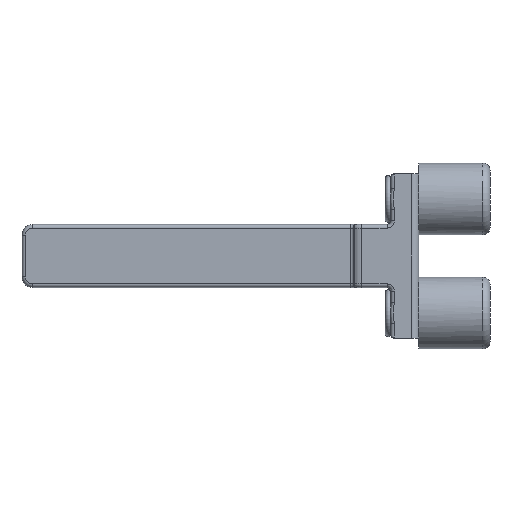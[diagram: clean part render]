
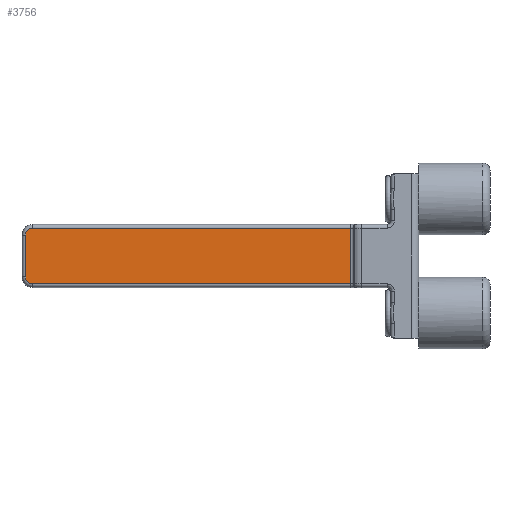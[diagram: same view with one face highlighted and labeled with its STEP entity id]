
A CAD part, left-side view. The second image highlights one B-rep face of the part: STEP entity #3756.
In plain terms, the highlighted planar face has unit normal (-1, 0, 0).
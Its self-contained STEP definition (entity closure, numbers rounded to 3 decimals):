
#63 = ORIENTED_EDGE ( 'NONE', *, *, #3107, .F. ) ;
#115 = VERTEX_POINT ( 'NONE', #1499 ) ;
#329 = VECTOR ( 'NONE', #1376, 1000. ) ;
#353 = LINE ( 'NONE', #1631, #329 ) ;
#432 = CARTESIAN_POINT ( 'NONE',  ( -2.55, 54.1, 15.62 ) ) ;
#476 = CARTESIAN_POINT ( 'NONE',  ( -2.55, 55.1, 8.78 ) ) ;
#598 = DIRECTION ( 'NONE',  ( 0., 0., -1. ) ) ;
#651 = CARTESIAN_POINT ( 'NONE',  ( -2.55, 54.1, 15.62 ) ) ;
#757 = FACE_OUTER_BOUND ( 'NONE', #2915, .T. ) ;
#1136 = DIRECTION ( 'NONE',  ( 0., 0., -1. ) ) ;
#1148 = AXIS2_PLACEMENT_3D ( 'NONE', #2499, #3252, #2623 ) ;
#1159 = ORIENTED_EDGE ( 'NONE', *, *, #3209, .T. ) ;
#1198 = CARTESIAN_POINT ( 'NONE',  ( -2.55, 9.507, 7.5 ) ) ;
#1222 = VERTEX_POINT ( 'NONE', #2072 ) ;
#1376 = DIRECTION ( 'NONE',  ( 0., -1., 0. ) ) ;
#1428 = VECTOR ( 'NONE', #598, 1000. ) ;
#1434 = LINE ( 'NONE', #476, #1428 ) ;
#1499 = CARTESIAN_POINT ( 'NONE',  ( -2.55, 54.1, 7.78 ) ) ;
#1508 = VECTOR ( 'NONE', #1136, 1000. ) ;
#1518 = LINE ( 'NONE', #1198, #1508 ) ;
#1631 = CARTESIAN_POINT ( 'NONE',  ( -2.55, 9.507, 7.78 ) ) ;
#1652 = CARTESIAN_POINT ( 'NONE',  ( -2.55, 9.507, 15.62 ) ) ;
#1706 = CIRCLE ( 'NONE', #1148, 1. ) ;
#1812 = VERTEX_POINT ( 'NONE', #432 ) ;
#1832 = CARTESIAN_POINT ( 'NONE',  ( -2.55, 9.507, 7.78 ) ) ;
#1915 = VERTEX_POINT ( 'NONE', #3167 ) ;
#1982 = VECTOR ( 'NONE', #3162, 1000. ) ;
#2002 = LINE ( 'NONE', #651, #1982 ) ;
#2017 = CIRCLE ( 'NONE', #2095, 1. ) ;
#2019 = EDGE_CURVE ( 'NONE', #1812, #1915, #2017, .T. ) ;
#2048 = EDGE_CURVE ( 'NONE', #4058, #1812, #2002, .T. ) ;
#2072 = CARTESIAN_POINT ( 'NONE',  ( -2.55, 55.1, 8.78 ) ) ;
#2075 = AXIS2_PLACEMENT_3D ( 'NONE', #2768, #2712, #2705 ) ;
#2095 = AXIS2_PLACEMENT_3D ( 'NONE', #2717, #3486, #4609 ) ;
#2201 = VERTEX_POINT ( 'NONE', #1832 ) ;
#2386 = ORIENTED_EDGE ( 'NONE', *, *, #2048, .T. ) ;
#2499 = CARTESIAN_POINT ( 'NONE',  ( -2.55, 54.1, 8.78 ) ) ;
#2623 = DIRECTION ( 'NONE',  ( 0., 0., -1. ) ) ;
#2705 = DIRECTION ( 'NONE',  ( 0., 0., 1. ) ) ;
#2712 = DIRECTION ( 'NONE',  ( 1., 0., 0. ) ) ;
#2714 = PLANE ( 'NONE',  #2075 ) ;
#2717 = CARTESIAN_POINT ( 'NONE',  ( -2.55, 54.1, 14.62 ) ) ;
#2751 = EDGE_CURVE ( 'NONE', #1222, #115, #1706, .T. ) ;
#2768 = CARTESIAN_POINT ( 'NONE',  ( -2.55, 9.3, 23.4 ) ) ;
#2915 = EDGE_LOOP ( 'NONE', ( #2957, #3848, #63, #2386, #3500, #1159 ) ) ;
#2957 = ORIENTED_EDGE ( 'NONE', *, *, #2751, .T. ) ;
#3107 = EDGE_CURVE ( 'NONE', #4058, #2201, #1518, .T. ) ;
#3162 = DIRECTION ( 'NONE',  ( 0., 1., 0. ) ) ;
#3167 = CARTESIAN_POINT ( 'NONE',  ( -2.55, 55.1, 14.62 ) ) ;
#3209 = EDGE_CURVE ( 'NONE', #1915, #1222, #1434, .T. ) ;
#3252 = DIRECTION ( 'NONE',  ( -1., 0., 0. ) ) ;
#3486 = DIRECTION ( 'NONE',  ( -1., 0., 0. ) ) ;
#3500 = ORIENTED_EDGE ( 'NONE', *, *, #2019, .T. ) ;
#3756 = ADVANCED_FACE ( 'NONE', ( #757 ), #2714, .F. ) ;
#3848 = ORIENTED_EDGE ( 'NONE', *, *, #4071, .T. ) ;
#4058 = VERTEX_POINT ( 'NONE', #1652 ) ;
#4071 = EDGE_CURVE ( 'NONE', #115, #2201, #353, .T. ) ;
#4609 = DIRECTION ( 'NONE',  ( 0., 0., -1. ) ) ;
